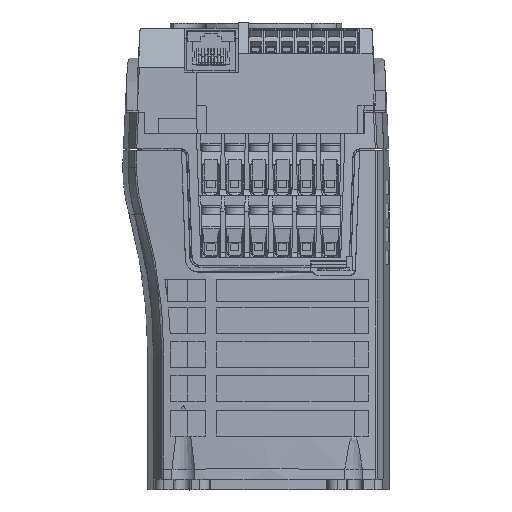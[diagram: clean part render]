
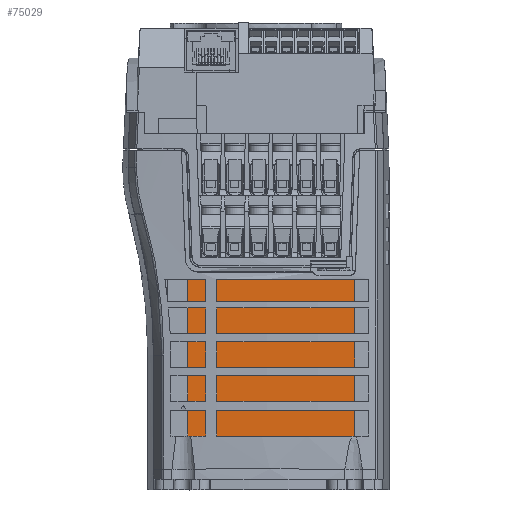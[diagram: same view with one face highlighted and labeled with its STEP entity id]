
A CAD part, front view. The second image highlights one B-rep face of the part: STEP entity #75029.
In plain terms, the highlighted planar face has unit normal (0, -1, -0.009).
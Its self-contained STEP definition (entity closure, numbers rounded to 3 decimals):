
#64919=DIRECTION('',(0.003,0.009,-1.));
#64920=VECTOR('',#64919,66.843);
#64921=CARTESIAN_POINT('',(-25.023,-113.52,
70.24));
#64922=LINE('',#64921,#64920);
#64972=DIRECTION('',(1.,0.,0.));
#64973=VECTOR('',#64972,53.523);
#64974=CARTESIAN_POINT('',(-25.023,-113.52,
70.24));
#64975=LINE('',#64974,#64973);
#64985=DIRECTION('',(1.,0.,0.));
#64986=VECTOR('',#64985,3.87);
#64987=CARTESIAN_POINT('',(24.63,-112.935,3.4));
#64988=LINE('',#64987,#64986);
#64993=DIRECTION('',(0.,-0.009,1.));
#64994=VECTOR('',#64993,66.842);
#64995=CARTESIAN_POINT('',(28.5,-112.935,3.4));
#64996=LINE('',#64995,#64994);
#65478=DIRECTION('',(1.,0.,0.));
#65479=VECTOR('',#65478,1.7);
#65480=CARTESIAN_POINT('',(22.93,-113.056,17.2));
#65481=LINE('',#65480,#65479);
#65515=DIRECTION('',(0.,-0.009,1.));
#65516=VECTOR('',#65515,13.801);
#65517=CARTESIAN_POINT('',(22.93,-112.935,3.4));
#65518=LINE('',#65517,#65516);
#65529=DIRECTION('',(1.,0.,0.));
#65530=VECTOR('',#65529,47.72);
#65531=CARTESIAN_POINT('',(-24.79,-112.935,3.4));
#65532=LINE('',#65531,#65530);
#65545=DIRECTION('',(0.,0.009,-1.));
#65546=VECTOR('',#65545,13.801);
#65547=CARTESIAN_POINT('',(24.63,-113.056,17.2));
#65548=LINE('',#65547,#65546);
#72615=CARTESIAN_POINT('',(28.5,-113.52,70.24));
#72617=VERTEX_POINT('',#72615);
#72619=CARTESIAN_POINT('',(-25.023,-113.52,
70.24));
#72620=VERTEX_POINT('',#72619);
#72638=CARTESIAN_POINT('',(28.5,-112.935,3.4));
#72639=VERTEX_POINT('',#72638);
#72641=CARTESIAN_POINT('',(22.93,-112.935,3.4));
#72643=VERTEX_POINT('',#72641);
#72646=CARTESIAN_POINT('',(-24.79,-112.935,3.4));
#72647=VERTEX_POINT('',#72646);
#72664=CARTESIAN_POINT('',(24.63,-112.935,3.4));
#72665=VERTEX_POINT('',#72664);
#72666=CARTESIAN_POINT('',(22.93,-113.056,17.2));
#72667=VERTEX_POINT('',#72666);
#72670=CARTESIAN_POINT('',(24.63,-113.056,17.2));
#72671=VERTEX_POINT('',#72670);
#75008=CARTESIAN_POINT('',(1.738,-113.227,
36.82));
#75009=DIRECTION('',(0.,1.,0.009));
#75010=DIRECTION('',(0.,-0.009,1.));
#75011=AXIS2_PLACEMENT_3D('',#75008,#75009,#75010);
#75012=PLANE('',#75011);
#75014=ORIENTED_EDGE('',*,*,#75013,.F.);
#75016=ORIENTED_EDGE('',*,*,#75015,.F.);
#75018=ORIENTED_EDGE('',*,*,#75017,.F.);
#75020=ORIENTED_EDGE('',*,*,#75019,.F.);
#75022=ORIENTED_EDGE('',*,*,#75021,.F.);
#75023=ORIENTED_EDGE('',*,*,#74961,.F.);
#75024=ORIENTED_EDGE('',*,*,#74761,.T.);
#75026=ORIENTED_EDGE('',*,*,#75025,.F.);
#75027=EDGE_LOOP('',(#75014,#75016,#75018,#75020,#75022,#75023,#75024,#75026));
#75028=FACE_OUTER_BOUND('',#75027,.F.);
#75029=ADVANCED_FACE('',(#75028),#75012,.F.);
#74761=EDGE_CURVE('',#72620,#72617,#64975,.T.);
#74961=EDGE_CURVE('',#72620,#72647,#64922,.T.);
#75013=EDGE_CURVE('',#72665,#72639,#64988,.T.);
#75015=EDGE_CURVE('',#72671,#72665,#65548,.T.);
#75017=EDGE_CURVE('',#72667,#72671,#65481,.T.);
#75019=EDGE_CURVE('',#72643,#72667,#65518,.T.);
#75021=EDGE_CURVE('',#72647,#72643,#65532,.T.);
#75025=EDGE_CURVE('',#72639,#72617,#64996,.T.);
